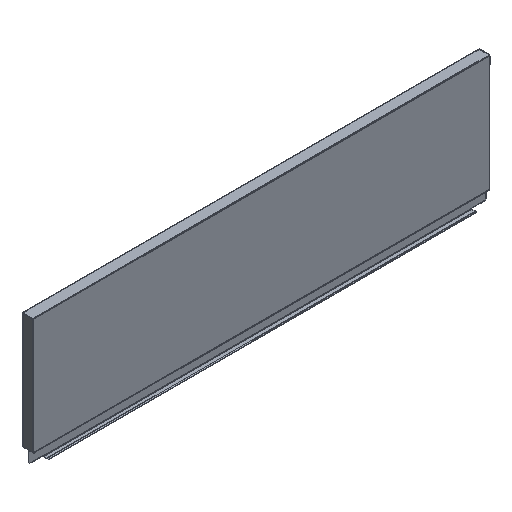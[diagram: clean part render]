
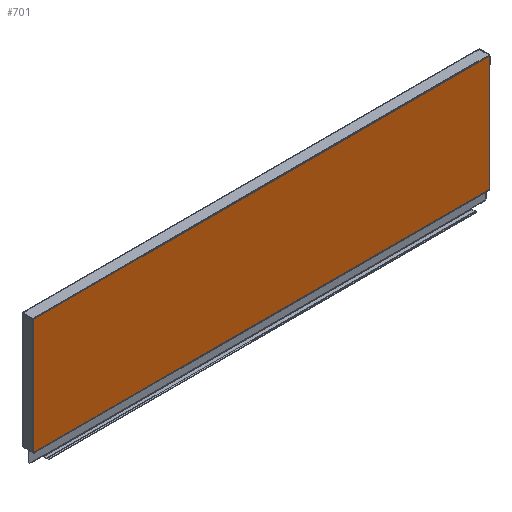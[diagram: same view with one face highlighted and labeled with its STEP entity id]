
A CAD part, isometric view. The second image highlights one B-rep face of the part: STEP entity #701.
In plain terms, the highlighted planar face has unit normal (0, -1, 0).
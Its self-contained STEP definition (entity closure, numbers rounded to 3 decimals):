
#16 = VERTEX_POINT ( 'NONE', #494 ) ;
#30 = VERTEX_POINT ( 'NONE', #489 ) ;
#66 = VERTEX_POINT ( 'NONE', #476 ) ;
#100 = DIRECTION ( 'NONE',  ( 1., 0., 0. ) ) ;
#101 = DIRECTION ( 'NONE',  ( 0., -1., 0. ) ) ;
#102 = CARTESIAN_POINT ( 'NONE',  ( -330., -6., 17. ) ) ;
#104 = PLANE ( 'NONE',  #2341 ) ;
#106 = VERTEX_POINT ( 'NONE', #460 ) ;
#121 = VERTEX_POINT ( 'NONE', #454 ) ;
#133 = VERTEX_POINT ( 'NONE', #450 ) ;
#145 = VERTEX_POINT ( 'NONE', #446 ) ;
#345 = CARTESIAN_POINT ( 'NONE',  ( -329., -6., 183.5 ) ) ;
#360 = CARTESIAN_POINT ( 'NONE',  ( -329., -6., 17.5 ) ) ;
#382 = CARTESIAN_POINT ( 'NONE',  ( 329., -6., 184. ) ) ;
#446 = CARTESIAN_POINT ( 'NONE',  ( -329., -6., 184. ) ) ;
#450 = CARTESIAN_POINT ( 'NONE',  ( -328.5, -6., 17.5 ) ) ;
#454 = CARTESIAN_POINT ( 'NONE',  ( 328.5, -6., 17. ) ) ;
#460 = CARTESIAN_POINT ( 'NONE',  ( 328.5, -6., 17.5 ) ) ;
#476 = CARTESIAN_POINT ( 'NONE',  ( 329., -6., 183.5 ) ) ;
#489 = CARTESIAN_POINT ( 'NONE',  ( 329., -6., 17.5 ) ) ;
#494 = CARTESIAN_POINT ( 'NONE',  ( -328.5, -6., 17. ) ) ;
#531 = VERTEX_POINT ( 'NONE', #382 ) ;
#550 = VERTEX_POINT ( 'NONE', #360 ) ;
#563 = VERTEX_POINT ( 'NONE', #345 ) ;
#701 = ADVANCED_FACE ( 'NONE', ( #1465 ), #104, .T. ) ;
#888 = EDGE_LOOP ( 'NONE', ( #1384, #1383, #1382, #1381, #1380, #1379, #1378, #1377, #1376, #1375 ) ) ;
#996 = DIRECTION ( 'NONE',  ( 0., 0., -1. ) ) ;
#997 = CARTESIAN_POINT ( 'NONE',  ( -329., -6., 202.385 ) ) ;
#998 = DIRECTION ( 'NONE',  ( 1., 0., 0. ) ) ;
#1000 = CARTESIAN_POINT ( 'NONE',  ( -330., -6., 17.5 ) ) ;
#1001 = DIRECTION ( 'NONE',  ( 0., 0., -1. ) ) ;
#1004 = CARTESIAN_POINT ( 'NONE',  ( -328.5, -6., 17.5 ) ) ;
#1005 = DIRECTION ( 'NONE',  ( 1., 0., 0. ) ) ;
#1006 = CARTESIAN_POINT ( 'NONE',  ( -330., -6., 17. ) ) ;
#1007 = DIRECTION ( 'NONE',  ( 0., 0., 1. ) ) ;
#1008 = CARTESIAN_POINT ( 'NONE',  ( 328.5, -6., 15.3 ) ) ;
#1010 = DIRECTION ( 'NONE',  ( 1., 0., 0. ) ) ;
#1012 = CARTESIAN_POINT ( 'NONE',  ( 328.5, -6., 17.5 ) ) ;
#1014 = DIRECTION ( 'NONE',  ( 0., 0., -1. ) ) ;
#1015 = CARTESIAN_POINT ( 'NONE',  ( 329., -6., 202.385 ) ) ;
#1016 = DIRECTION ( 'NONE',  ( 0., 0., -1. ) ) ;
#1017 = CARTESIAN_POINT ( 'NONE',  ( 329., -6., 202.385 ) ) ;
#1020 = DIRECTION ( 'NONE',  ( 1., 0., 0. ) ) ;
#1021 = CARTESIAN_POINT ( 'NONE',  ( -330., -6., 184. ) ) ;
#1023 = DIRECTION ( 'NONE',  ( 0., 0., -1. ) ) ;
#1024 = CARTESIAN_POINT ( 'NONE',  ( -329., -6., 202.385 ) ) ;
#1375 = ORIENTED_EDGE ( 'NONE', *, *, #2286, .T. ) ;
#1376 = ORIENTED_EDGE ( 'NONE', *, *, #2287, .F. ) ;
#1377 = ORIENTED_EDGE ( 'NONE', *, *, #2288, .F. ) ;
#1378 = ORIENTED_EDGE ( 'NONE', *, *, #2289, .F. ) ;
#1379 = ORIENTED_EDGE ( 'NONE', *, *, #2290, .T. ) ;
#1380 = ORIENTED_EDGE ( 'NONE', *, *, #2291, .T. ) ;
#1381 = ORIENTED_EDGE ( 'NONE', *, *, #2292, .T. ) ;
#1382 = ORIENTED_EDGE ( 'NONE', *, *, #2293, .T. ) ;
#1383 = ORIENTED_EDGE ( 'NONE', *, *, #2294, .T. ) ;
#1384 = ORIENTED_EDGE ( 'NONE', *, *, #2295, .T. ) ;
#1465 = FACE_OUTER_BOUND ( 'NONE', #888, .T. ) ;
#1762 = LINE ( 'NONE', #1024, #1763 ) ;
#1763 = VECTOR ( 'NONE', #1023, 1000. ) ;
#1764 = LINE ( 'NONE', #1021, #1765 ) ;
#1765 = VECTOR ( 'NONE', #1020, 1000. ) ;
#1766 = LINE ( 'NONE', #1017, #1767 ) ;
#1767 = VECTOR ( 'NONE', #1016, 1000. ) ;
#1768 = LINE ( 'NONE', #1015, #1769 ) ;
#1769 = VECTOR ( 'NONE', #1014, 1000. ) ;
#1770 = LINE ( 'NONE', #1012, #1771 ) ;
#1771 = VECTOR ( 'NONE', #1010, 1000. ) ;
#1772 = LINE ( 'NONE', #1008, #1773 ) ;
#1773 = VECTOR ( 'NONE', #1007, 1000. ) ;
#1774 = LINE ( 'NONE', #1006, #1775 ) ;
#1775 = VECTOR ( 'NONE', #1005, 1000. ) ;
#1776 = LINE ( 'NONE', #1004, #1777 ) ;
#1777 = VECTOR ( 'NONE', #1001, 1000. ) ;
#1778 = LINE ( 'NONE', #1000, #1779 ) ;
#1779 = VECTOR ( 'NONE', #998, 1000. ) ;
#1780 = LINE ( 'NONE', #997, #1781 ) ;
#1781 = VECTOR ( 'NONE', #996, 1000. ) ;
#2286 = EDGE_CURVE ( 'NONE', #145, #563, #1762, .T. ) ;
#2287 = EDGE_CURVE ( 'NONE', #145, #531, #1764, .T. ) ;
#2288 = EDGE_CURVE ( 'NONE', #531, #66, #1766, .T. ) ;
#2289 = EDGE_CURVE ( 'NONE', #66, #30, #1768, .T. ) ;
#2290 = EDGE_CURVE ( 'NONE', #106, #30, #1770, .T. ) ;
#2291 = EDGE_CURVE ( 'NONE', #121, #106, #1772, .T. ) ;
#2292 = EDGE_CURVE ( 'NONE', #16, #121, #1774, .T. ) ;
#2293 = EDGE_CURVE ( 'NONE', #133, #16, #1776, .T. ) ;
#2294 = EDGE_CURVE ( 'NONE', #550, #133, #1778, .T. ) ;
#2295 = EDGE_CURVE ( 'NONE', #563, #550, #1780, .T. ) ;
#2341 = AXIS2_PLACEMENT_3D ( 'NONE', #102, #101, #100 ) ;
